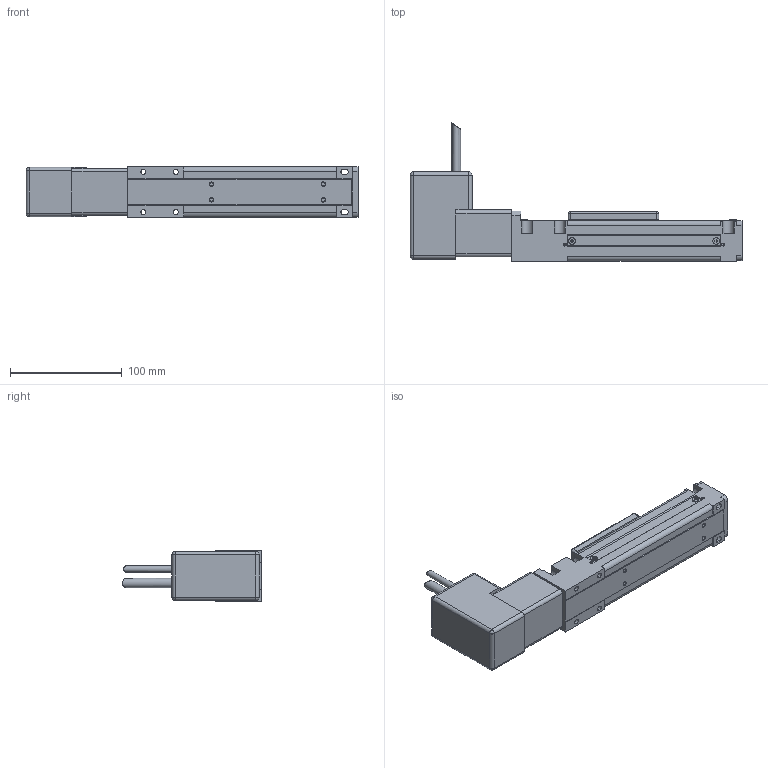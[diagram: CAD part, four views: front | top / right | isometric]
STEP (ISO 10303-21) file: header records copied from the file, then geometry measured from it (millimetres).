
FILE_DESCRIPTION(/* description */ ('Alibre Inc.'),/* implementation_level */ '2;1');
FILE_NAME(/* name */ 'export0',/* time_stamp */ '2010-03-31T14:50:51-04:00',/* author */ (''),/* organization */ (''),/* preprocessor_version */ 'ST-DEVELOPER v10',/* originating_system */ 'Alibre',/* authorisation */ '');
FILE_SCHEMA (('CONFIG_CONTROL_DESIGN'));
Length unit declared in the file: millimetre
Products named in the file (4): 1; 2; ID_1
Bounding box: 297 x 124.18 x 45 mm (x, y, z)
Volume: 409306.8 mm3; surface area: 121318 mm2
Topology: 3 solids, 3 shells, 673 faces, 1759 edges, 1092 vertices
Faces by surface type: plane 430, cylinder 147, cone 82, torus 8, sphere 6
Full cylindrical faces by diameter (mm): 2.459 x3, 2.5 x1, 5 x1, 5.6 x1, 8.5 x1, 22 x1
Entity records: 20170 total; most frequent: CARTESIAN_POINT 3638, ORIENTED_EDGE 3428, DIRECTION 2989, EDGE_CURVE 1714, VECTOR 1305, LINE 1305, VERTEX_POINT 1089, AXIS2_PLACEMENT_3D 1060
